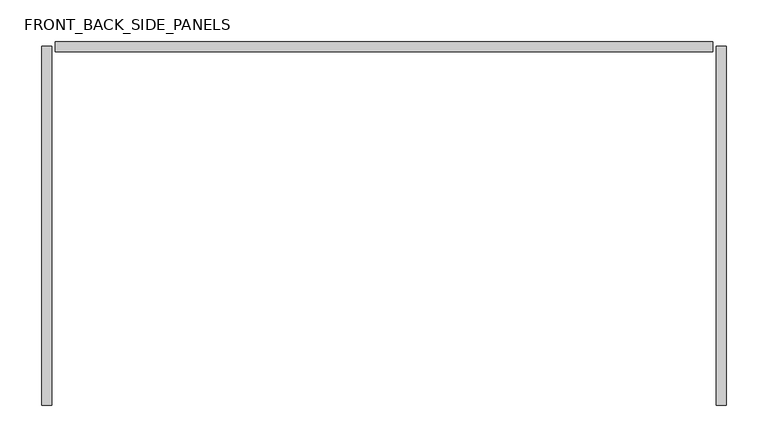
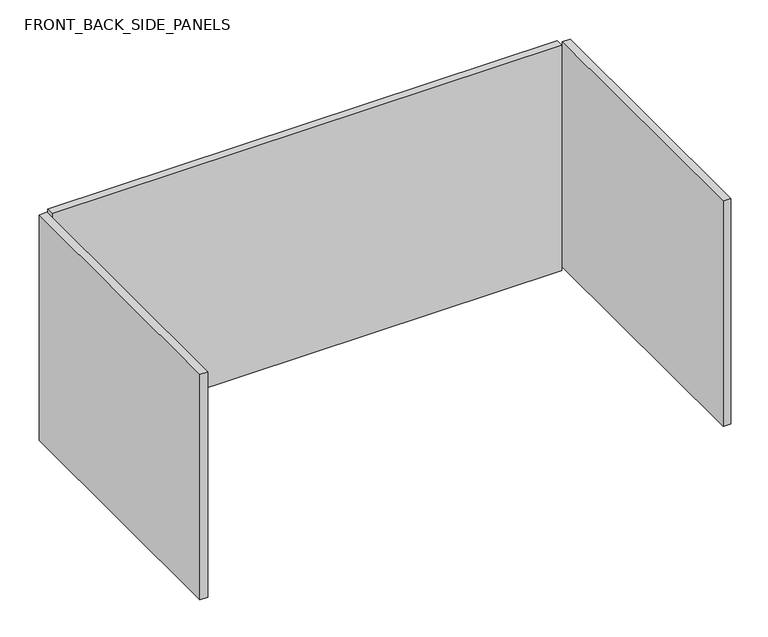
"""IFC4 building model written with IfcOpenShell, lengths in millimetres: furniture geometry, FRONT_BACK_SIDE_PANELS : 800mmW_BACK_&_SIDE_PANELS."""

from ifc_helpers import new_model, si_unit, frame, origin, place, context, project, spatial, polyline, outline, extrude, source, transform, mapped, element, save


def front_back_side_panels_028dd0f3(model_context):
    return source(origin(), model_context, "Body", "SweptSolid", [
        extrude(outline(polyline([(412.0, -214.7757931), (400.0, -214.7757931), (400.0, 217.1931665), (412.0, 217.1931665), (412.0, -214.7757931)])), frame((0.0, 0.0, 808.0), z_axis=(0.0, 0.0, 1.0), x_axis=(1.0, 0.0, 0.0)), (0.0, 0.0, 1.0), 370.0),
        extrude(outline(polyline([(-400.0, -214.7757931), (-412.0, -214.7757931), (-412.0, 217.1931665), (-400.0, 217.1931665), (-400.0, -214.7757931)])), frame((0.0, 0.0, 808.0), z_axis=(0.0, 0.0, 1.0), x_axis=(1.0, 0.0, 0.0)), (0.0, 0.0, 1.0), 370.0),
        extrude(outline(polyline([(395.4939356, 222.7282814), (395.4939356, 210.7282814), (-395.4939356, 210.7282814), (-395.4939356, 222.7282814), (395.4939356, 222.7282814)])), frame((0.0, 0.0, 808.0), z_axis=(0.0, 0.0, 1.0), x_axis=(1.0, 0.0, 0.0)), (0.0, 0.0, 1.0), 370.0),
    ])


if __name__ == "__main__":
    model = new_model("IFC4")
    model_context = context("Model", 3, world=origin())
    ifc_project = project(units=[si_unit("LENGTHUNIT", "METRE", prefix="MILLI")], contexts=[model_context])
    site = spatial("IfcSite", under=ifc_project)
    building = spatial("IfcBuilding", under=site)
    placement = place(None, origin())
    front_back_side_panels_shape = front_back_side_panels_028dd0f3(model_context)
    element("IfcFurniture", 1, ObjectType="FRONT_BACK_SIDE_PANELS : 800mmW_BACK_&_SIDE_PANELS", at=placement, inside=building, context=model_context, shape_type="MappedRepresentation", body=[
        mapped(front_back_side_panels_shape, transform((0.0, 0.0, 0.0), x_axis=(1.0, 0.0, 0.0), y_axis=(0.0, 1.0, 0.0), z_axis=(0.0, 0.0, 1.0))),
    ])
    save(model, "model.ifc")
